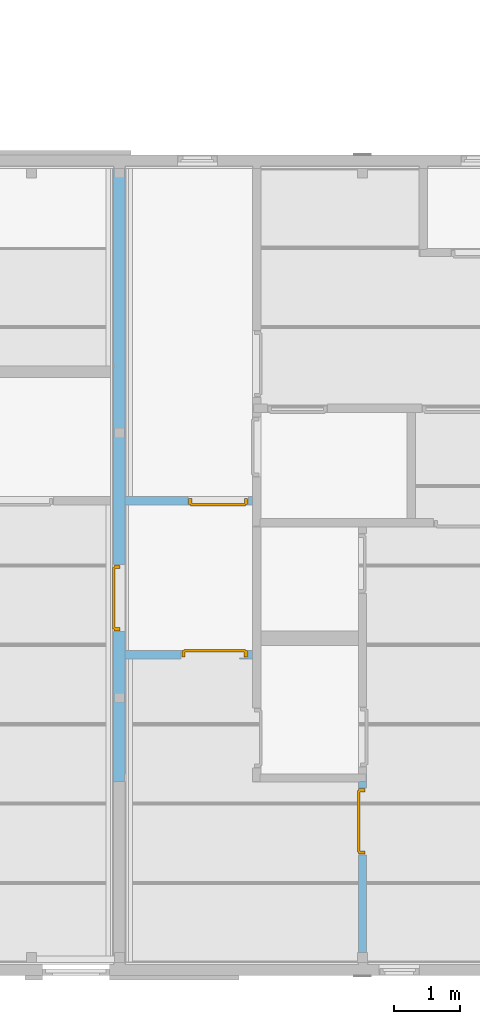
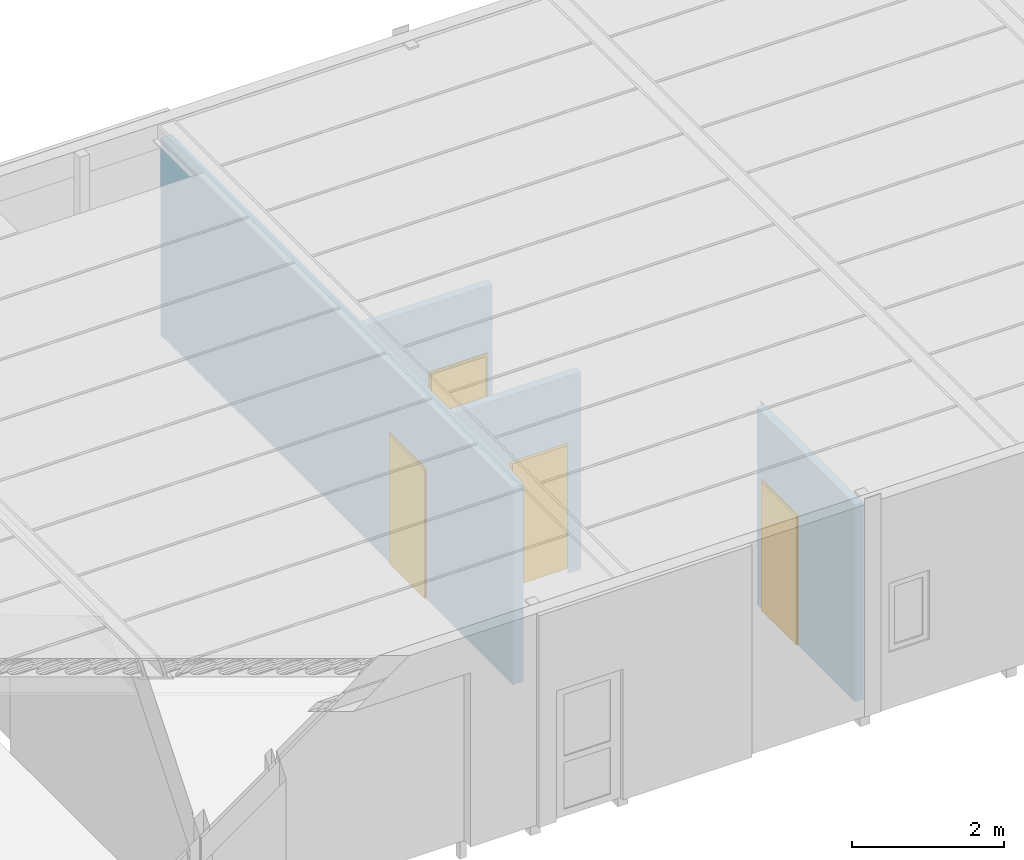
# One storey, part 27 of 45: 4 doors, 4 openings, plus 4 elements that do not belong to this part.
"""IFC2X3 building model written with IfcOpenShell, lengths in millimetres."""

from ifc_helpers import new_model, entity, si_unit, converted_unit, frame, frame_2d, origin, origin_with_axes, place, context, subcontext, project, spatial, polyline, rectangle, outline, extrude, faceted_brep, material, layer, layer_set, layer_usage, type_object, element, fill, save


model = new_model("IFC2X3")

# Units and contexts
model_context = context("Model", 3, precision=1e-05, world=origin())
plan_context = context("Plan", 3, precision=1e-05, world=origin())
body_context = subcontext(model_context, "Body", "Model", "MODEL_VIEW")
ifc_project = project(units=[si_unit("LENGTHUNIT", "METRE", prefix="MILLI"), converted_unit("PLANEANGLEUNIT", "DEGREE", entity("IfcPlaneAngleMeasure", 0.0174532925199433), si_unit("PLANEANGLEUNIT", "RADIAN"), dimensions=[0, 0, 0, 0, 0, 0, 0]), si_unit("AREAUNIT", "SQUARE_METRE"), si_unit("VOLUMEUNIT", "CUBIC_METRE")], contexts=[model_context, plan_context])

# Building, storey
building_placement = place(None, origin())
building = spatial("IfcBuilding", under=ifc_project, at=building_placement, Name="HEKF Administrasjonbygg", CompositionType="ELEMENT")
storey_placement = place(building_placement, frame((0.0, 0.0, 6500.0), z_axis=(0.0, 0.0, 1.0), x_axis=(1.0, 0.0, 0.0)))
storey = spatial("IfcBuildingStorey", under=building, at=storey_placement, Name="Plan 1", CompositionType="ELEMENT", Elevation=6500.0)

# Wall, opening, door
ifc_material_1 = material(Name="gips")
ifc_layer_1 = layer(ifc_material_1, 13.0)
ifc_material_2 = material(Name="riegel stål 100")
ifc_layer_2 = layer(ifc_material_2, 150.0)
ifc_material_3 = material(Name="gips")
ifc_layer_3 = layer(ifc_material_3, 13.0)
ifc_layer_set_1 = layer_set([ifc_layer_1, ifc_layer_2, ifc_layer_3])
ifc_layer_usage_1 = layer_usage(ifc_layer_set_1, "AXIS2", "POSITIVE", -13.0)
wall_1_placement = place(storey_placement, frame((16237.0, -1.13686837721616e-13, 0.0), z_axis=(0.0, 0.0, 1.0), x_axis=(0.0, -1.0, 0.0)))
wall_1 = element("IfcWallStandardCase", 1, at=wall_1_placement, inside=storey, material=ifc_layer_usage_1, context=body_context, shape_type="SweptSolid", body=[
    extrude(outline(polyline([(0.0, 0.0), (2987.0, 0.0), (2987.0, 13.0), (3000.0, 13.0), (3000.0, 0.0), (9276.00000000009, 0.0), (9276.00000000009, 13.0), (9263.00000000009, 13.0), (9263.00000000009, 163.0), (9163.00000000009, 163.0), (9163.00000000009, 176.0), (0.0, 176.0), (0.0, 0.0)])), origin_with_axes(), (0.0, 0.0, 1.0), 3170.0),
])
opening_1_placement = place(wall_1_placement, frame((5989.999999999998, 0.0, 0.0), z_axis=(0.0, 1.0, 0.0), x_axis=(0.0, 0.0, 1.0)))
opening_1 = element("IfcOpeningElement", 2, at=opening_1_placement, cuts=wall_1, Name="garasjeport med glassfelter:45x6", ObjectType="Opening", context=body_context, shape_type="SweptSolid", body=[
    extrude(rectangle(XDim=2100.0, YDim=1010.0, at=frame_2d((1050.0, 505.0), x_axis=(1.0, 0.0))), origin_with_axes(), (0.0, 0.0, 1.0), 176.0),
])
ifc_material_4 = material()
door_style_1 = type_object("IfcDoorStyle", Name="D012", ConstructionType="NOTDEFINED", OperationType="USERDEFINED", ParameterTakesPrecedence=False, Sizeable=False)
door_1_placement = place(opening_1_placement, frame((0.0, 0.0, 0.0), z_axis=(1.0, 0.0, 0.0), x_axis=(0.0, 1.0, 0.0)))
door_1 = element("IfcDoor", 3, at=door_1_placement, inside=storey, type_object=door_style_1, material=ifc_material_4, Name="D012", OverallHeight=2100.0, OverallWidth=1010.0, context=body_context, shape_type="Brep", body=[
    faceted_brep([(9.999999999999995, 3.999999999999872, 2080.0), (59.99999999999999, 3.999999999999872, 2080.0), (59.99999999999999, 4.0, -2.816687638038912e-15), (9.999999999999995, 4.0, -2.816687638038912e-15), (10.0, 96.0, 2.816687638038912e-15), (60.0, 96.0, 2.816687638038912e-15), (60.0, 95.99999999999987, 2080.0), (10.0, 95.99999999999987, 2080.0), (9.999999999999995, 4.0, -2.816687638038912e-15), (10.0, 96.0, 2.816687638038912e-15), (10.0, 95.99999999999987, 2080.0), (9.999999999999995, 3.999999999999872, 2080.0), (59.99999999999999, 4.0, -2.816687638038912e-15), (60.0, 96.0, 2.816687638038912e-15), (10.0, 96.0, 2.816687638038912e-15), (9.999999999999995, 4.0, -2.816687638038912e-15), (59.99999999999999, 3.999999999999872, 2080.0), (60.0, 95.99999999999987, 2080.0), (60.0, 96.0, 2.816687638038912e-15), (59.99999999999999, 4.0, -2.816687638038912e-15), (9.999999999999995, 3.999999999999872, 2080.0), (10.0, 95.99999999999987, 2080.0), (60.0, 95.99999999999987, 2080.0), (59.99999999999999, 3.999999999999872, 2080.0)], [[[0, 1, 2, 3]], [[4, 5, 6, 7]], [[8, 9, 10, 11]], [[12, 13, 14, 15]], [[16, 17, 18, 19]], [[20, 21, 22, 23]]], orient=[[False], [False], [False], [False], [False], [False]]),
    faceted_brep([(950.0, 3.999999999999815, 2080.0), (1000.0, 3.999999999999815, 2080.0), (1000.0, 3.999999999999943, -2.816687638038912e-15), (950.0, 3.999999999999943, -2.816687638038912e-15), (950.0, 95.99999999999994, 2.816687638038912e-15), (1000.0, 95.99999999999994, 2.816687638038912e-15), (1000.0, 95.99999999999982, 2080.0), (950.0, 95.99999999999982, 2080.0), (950.0, 3.999999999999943, -2.816687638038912e-15), (950.0, 95.99999999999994, 2.816687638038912e-15), (950.0, 95.99999999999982, 2080.0), (950.0, 3.999999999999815, 2080.0), (1000.0, 3.999999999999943, -2.816687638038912e-15), (1000.0, 95.99999999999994, 2.816687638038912e-15), (950.0, 95.99999999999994, 2.816687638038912e-15), (950.0, 3.999999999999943, -2.816687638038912e-15), (1000.0, 3.999999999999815, 2080.0), (1000.0, 95.99999999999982, 2080.0), (1000.0, 95.99999999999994, 2.816687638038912e-15), (1000.0, 3.999999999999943, -2.816687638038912e-15), (950.0, 3.999999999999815, 2080.0), (950.0, 95.99999999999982, 2080.0), (1000.0, 95.99999999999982, 2080.0), (1000.0, 3.999999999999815, 2080.0)], [[[0, 1, 2, 3]], [[4, 5, 6, 7]], [[8, 9, 10, 11]], [[12, 13, 14, 15]], [[16, 17, 18, 19]], [[20, 21, 22, 23]]], orient=[[False], [False], [False], [False], [False], [False]]),
    faceted_brep([(59.99999999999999, 3.999999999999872, 2080.0), (949.9999999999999, 3.999999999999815, 2080.0), (949.9999999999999, 3.999999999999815, 2030.0), (59.99999999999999, 3.999999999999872, 2030.0), (60.0, 95.99999999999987, 2030.0), (949.9999999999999, 95.99999999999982, 2030.0), (949.9999999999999, 95.99999999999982, 2080.000000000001), (60.0, 95.99999999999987, 2080.000000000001), (59.99999999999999, 3.999999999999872, 2030.0), (60.0, 95.99999999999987, 2030.0), (60.0, 95.99999999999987, 2080.000000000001), (59.99999999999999, 3.999999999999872, 2080.0), (949.9999999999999, 3.999999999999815, 2030.0), (949.9999999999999, 95.99999999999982, 2030.0), (60.0, 95.99999999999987, 2030.0), (59.99999999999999, 3.999999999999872, 2030.0), (949.9999999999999, 3.999999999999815, 2080.0), (949.9999999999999, 95.99999999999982, 2080.000000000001), (949.9999999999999, 95.99999999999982, 2030.0), (949.9999999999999, 3.999999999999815, 2030.0), (59.99999999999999, 3.999999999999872, 2080.0), (60.0, 95.99999999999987, 2080.000000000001), (949.9999999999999, 95.99999999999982, 2080.000000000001), (949.9999999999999, 3.999999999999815, 2080.0)], [[[0, 1, 2, 3]], [[4, 5, 6, 7]], [[8, 9, 10, 11]], [[12, 13, 14, 15]], [[16, 17, 18, 19]], [[20, 21, 22, 23]]], orient=[[False], [False], [False], [False], [False], [False]]),
    faceted_brep([(40.0, -16.00000000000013, 2050.000000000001), (969.9999999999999, -16.00000000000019, 2050.000000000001), (969.9999999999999, -16.00000000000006, -4.041334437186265e-15), (40.0, -16.0, -4.041334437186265e-15), (40.0, 24.0, -1.592040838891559e-15), (969.9999999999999, 23.99999999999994, -1.592040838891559e-15), (969.9999999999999, 23.99999999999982, 2050.000000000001), (40.0, 23.99999999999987, 2050.000000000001), (40.0, -16.0, -4.041334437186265e-15), (40.0, 24.0, -1.592040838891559e-15), (40.0, 23.99999999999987, 2050.000000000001), (40.0, -16.00000000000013, 2050.000000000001), (969.9999999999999, -16.00000000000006, -4.041334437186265e-15), (969.9999999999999, 23.99999999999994, -1.592040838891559e-15), (40.0, 24.0, -1.592040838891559e-15), (40.0, -16.0, -4.041334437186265e-15), (969.9999999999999, -16.00000000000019, 2050.000000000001), (969.9999999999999, 23.99999999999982, 2050.000000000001), (969.9999999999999, 23.99999999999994, -1.592040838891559e-15), (969.9999999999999, -16.00000000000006, -4.041334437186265e-15), (40.0, -16.00000000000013, 2050.000000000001), (40.0, 23.99999999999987, 2050.000000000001), (969.9999999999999, 23.99999999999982, 2050.000000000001), (969.9999999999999, -16.00000000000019, 2050.000000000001)], [[[0, 1, 2, 3]], [[4, 5, 6, 7]], [[8, 9, 10, 11]], [[12, 13, 14, 15]], [[16, 17, 18, 19]], [[20, 21, 22, 23]]], orient=[[False], [False], [False], [False], [False], [False]]),
])
fill(opening_1, door_1)

ifc_material_5 = material(Name="gips")
ifc_layer_4 = layer(ifc_material_5, 13.0)
ifc_material_6 = material(Name="riegel stål 100")
ifc_layer_5 = layer(ifc_material_6, 100.0)
ifc_material_7 = material(Name="gips")
ifc_layer_6 = layer(ifc_material_7, 13.0)
ifc_layer_set_2 = layer_set([ifc_layer_4, ifc_layer_5, ifc_layer_6])
ifc_layer_usage_2 = layer_usage(ifc_layer_set_2, "AXIS2", "POSITIVE", 0.0)
wall_2_placement = place(storey_placement, frame((18337.0, -4961.000000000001, 0.0), z_axis=(0.0, 0.0, 1.0), x_axis=(-1.0, 3.078277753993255e-16, 0.0)))
wall_2 = element("IfcWallStandardCase", 4, at=wall_2_placement, inside=storey, material=ifc_layer_usage_2, context=body_context, shape_type="SweptSolid", body=[
    extrude(outline(polyline([(1924.0, 125.9999999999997), (-3.878629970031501e-14, 126.0), (0.0, 0.0), (1924.0, -3.172340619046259e-13), (1924.0, 125.9999999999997)])), origin_with_axes(), (0.0, 0.0, 1.0), 3170.0),
])
opening_2_placement = place(wall_2_placement, frame((63.64611840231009, 0.0, 0.0), z_axis=(0.0, 1.0, 0.0), x_axis=(0.0, 0.0, 1.0)))
opening_2 = element("IfcOpeningElement", 5, at=opening_2_placement, cuts=wall_2, Name="D014", ObjectType="Opening", context=body_context, shape_type="SweptSolid", body=[
    extrude(rectangle(XDim=2100.0, YDim=910.0, at=frame_2d((1050.0, 455.0), x_axis=(1.0, 0.0))), origin_with_axes(), (0.0, 0.0, 1.0), 126.0),
])
ifc_material_8 = material()
door_style_2 = type_object("IfcDoorStyle", Name="D014", ConstructionType="NOTDEFINED", OperationType="USERDEFINED", ParameterTakesPrecedence=False, Sizeable=False)
door_2_placement = place(opening_2_placement, frame((0.0, 0.0, 0.0), z_axis=(1.0, 0.0, 0.0), x_axis=(0.0, 1.0, 0.0)))
door_2 = element("IfcDoor", 6, at=door_2_placement, inside=storey, type_object=door_style_2, material=ifc_material_8, Name="D014", OverallHeight=2100.0, OverallWidth=910.0, context=body_context, shape_type="Brep", body=[
    faceted_brep([(9.999999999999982, 122.0000000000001, 2080.0), (9.999999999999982, 121.9999999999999, -2.816687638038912e-15), (59.99999999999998, 122.0, -2.816687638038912e-15), (59.99999999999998, 122.0000000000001, 2080.0), (10.0, 30.00000000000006, 2.816687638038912e-15), (10.0, 30.00000000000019, 2080.0), (60.0, 30.0000000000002, 2080.0), (60.0, 30.00000000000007, 2.816687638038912e-15), (9.999999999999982, 121.9999999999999, -2.816687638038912e-15), (9.999999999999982, 122.0000000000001, 2080.0), (10.0, 30.00000000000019, 2080.0), (10.0, 30.00000000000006, 2.816687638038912e-15), (59.99999999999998, 122.0, -2.816687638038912e-15), (9.999999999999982, 121.9999999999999, -2.816687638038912e-15), (10.0, 30.00000000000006, 2.816687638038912e-15), (60.0, 30.00000000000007, 2.816687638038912e-15), (59.99999999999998, 122.0000000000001, 2080.0), (59.99999999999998, 122.0, -2.816687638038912e-15), (60.0, 30.00000000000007, 2.816687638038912e-15), (60.0, 30.0000000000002, 2080.0), (9.999999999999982, 122.0000000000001, 2080.0), (59.99999999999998, 122.0000000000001, 2080.0), (60.0, 30.0000000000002, 2080.0), (10.0, 30.00000000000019, 2080.0)], [[[0, 1, 2, 3]], [[4, 5, 6, 7]], [[8, 9, 10, 11]], [[12, 13, 14, 15]], [[16, 17, 18, 19]], [[20, 21, 22, 23]]], orient=[[False], [False], [False], [False], [False], [False]]),
    faceted_brep([(850.0, 122.0000000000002, 2080.0), (850.0, 122.0000000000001, -2.816687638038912e-15), (900.0, 122.0000000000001, -2.816687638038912e-15), (900.0, 122.0000000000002, 2080.0), (850.0, 30.00000000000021, 2.816687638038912e-15), (850.0, 30.00000000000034, 2080.0), (900.0, 30.00000000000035, 2080.0), (900.0, 30.00000000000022, 2.816687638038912e-15), (850.0, 122.0000000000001, -2.816687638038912e-15), (850.0, 122.0000000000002, 2080.0), (850.0, 30.00000000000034, 2080.0), (850.0, 30.00000000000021, 2.816687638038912e-15), (900.0, 122.0000000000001, -2.816687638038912e-15), (850.0, 122.0000000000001, -2.816687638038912e-15), (850.0, 30.00000000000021, 2.816687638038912e-15), (900.0, 30.00000000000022, 2.816687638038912e-15), (900.0, 122.0000000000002, 2080.0), (900.0, 122.0000000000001, -2.816687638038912e-15), (900.0, 30.00000000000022, 2.816687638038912e-15), (900.0, 30.00000000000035, 2080.0), (850.0, 122.0000000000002, 2080.0), (900.0, 122.0000000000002, 2080.0), (900.0, 30.00000000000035, 2080.0), (850.0, 30.00000000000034, 2080.0)], [[[0, 1, 2, 3]], [[4, 5, 6, 7]], [[8, 9, 10, 11]], [[12, 13, 14, 15]], [[16, 17, 18, 19]], [[20, 21, 22, 23]]], orient=[[False], [False], [False], [False], [False], [False]]),
    faceted_brep([(59.99999999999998, 122.0000000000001, 2080.0), (59.99999999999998, 122.0000000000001, 2030.0), (849.9999999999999, 122.0000000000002, 2030.0), (849.9999999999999, 122.0000000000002, 2080.0), (60.0, 30.0000000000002, 2030.0), (60.0, 30.0000000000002, 2080.000000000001), (849.9999999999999, 30.00000000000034, 2080.000000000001), (849.9999999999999, 30.00000000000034, 2030.0), (59.99999999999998, 122.0000000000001, 2030.0), (59.99999999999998, 122.0000000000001, 2080.0), (60.0, 30.0000000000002, 2080.000000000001), (60.0, 30.0000000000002, 2030.0), (849.9999999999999, 122.0000000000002, 2030.0), (59.99999999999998, 122.0000000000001, 2030.0), (60.0, 30.0000000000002, 2030.0), (849.9999999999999, 30.00000000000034, 2030.0), (849.9999999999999, 122.0000000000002, 2080.0), (849.9999999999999, 122.0000000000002, 2030.0), (849.9999999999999, 30.00000000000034, 2030.0), (849.9999999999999, 30.00000000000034, 2080.000000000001), (59.99999999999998, 122.0000000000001, 2080.0), (849.9999999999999, 122.0000000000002, 2080.0), (849.9999999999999, 30.00000000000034, 2080.000000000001), (60.0, 30.0000000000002, 2080.000000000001)], [[[0, 1, 2, 3]], [[4, 5, 6, 7]], [[8, 9, 10, 11]], [[12, 13, 14, 15]], [[16, 17, 18, 19]], [[20, 21, 22, 23]]], orient=[[False], [False], [False], [False], [False], [False]]),
    faceted_brep([(39.99999999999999, 142.0000000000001, 2050.000000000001), (39.99999999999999, 141.9999999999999, -4.041334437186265e-15), (870.0, 142.0000000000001, -4.041334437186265e-15), (870.0, 142.0000000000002, 2050.000000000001), (39.99999999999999, 102.0, -1.592040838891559e-15), (39.99999999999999, 102.0000000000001, 2050.000000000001), (870.0, 102.0000000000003, 2050.000000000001), (870.0, 102.0000000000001, -1.592040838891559e-15), (39.99999999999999, 141.9999999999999, -4.041334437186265e-15), (39.99999999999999, 142.0000000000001, 2050.000000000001), (39.99999999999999, 102.0000000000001, 2050.000000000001), (39.99999999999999, 102.0, -1.592040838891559e-15), (870.0, 142.0000000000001, -4.041334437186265e-15), (39.99999999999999, 141.9999999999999, -4.041334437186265e-15), (39.99999999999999, 102.0, -1.592040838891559e-15), (870.0, 102.0000000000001, -1.592040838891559e-15), (870.0, 142.0000000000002, 2050.000000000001), (870.0, 142.0000000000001, -4.041334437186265e-15), (870.0, 102.0000000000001, -1.592040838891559e-15), (870.0, 102.0000000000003, 2050.000000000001), (39.99999999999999, 142.0000000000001, 2050.000000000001), (870.0, 142.0000000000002, 2050.000000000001), (870.0, 102.0000000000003, 2050.000000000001), (39.99999999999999, 102.0000000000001, 2050.000000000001)], [[[0, 1, 2, 3]], [[4, 5, 6, 7]], [[8, 9, 10, 11]], [[12, 13, 14, 15]], [[16, 17, 18, 19]], [[20, 21, 22, 23]]], orient=[[False], [False], [False], [False], [False], [False]]),
])
fill(opening_2, door_2)

ifc_material_9 = material(Name="gips")
ifc_layer_7 = layer(ifc_material_9, 14.41362522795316)
ifc_material_10 = material(Name="riegel stål 100")
ifc_layer_8 = layer(ifc_material_10, 99.68287760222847)
ifc_material_11 = material(Name="gips")
ifc_layer_9 = layer(ifc_material_11, 13.03688364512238)
ifc_layer_set_3 = layer_set([ifc_layer_7, ifc_layer_8, ifc_layer_9])
ifc_layer_usage_3 = layer_usage(ifc_layer_set_3, "AXIS2", "POSITIVE", -13.0)
wall_3_placement = place(storey_placement, frame((16413.0, -7412.999999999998, 0.0), z_axis=(0.0, 0.0, 1.0), x_axis=(1.0, 0.0, 0.0)))
wall_3 = element("IfcWallStandardCase", 7, at=wall_3_placement, inside=storey, material=ifc_layer_usage_3, context=body_context, shape_type="SweptSolid", body=[
    extrude(outline(polyline([(1924.0, 127.4136252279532), (815.1164036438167, 127.4136252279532), (0.0, 126.0), (0.0, 0.0), (1924.0, 0.0), (1924.0, 127.4136252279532)]), holes=[polyline([(815.1164036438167, 114.4136252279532), (1725.116403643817, 114.4136252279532), (1757.765161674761, 114.092363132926), (1924.0, 113.9407350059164), (815.1164036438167, 114.4136252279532)])]), origin_with_axes(), (0.0, 0.0, 1.0), 3170.0),
])
opening_3_placement = place(wall_3_placement, frame((845.2425021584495, 0.0, 0.0), z_axis=(0.0, 1.0, 0.0), x_axis=(0.0, 0.0, 1.0)))
opening_3 = element("IfcOpeningElement", 8, at=opening_3_placement, cuts=wall_3, Name="D013", ObjectType="Opening", context=body_context, shape_type="SweptSolid", body=[
    extrude(rectangle(XDim=2100.0, YDim=879.8739014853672, at=frame_2d((1050.0, 439.9369507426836), x_axis=(1.0, 0.0))), origin_with_axes(), (0.0, 0.0, 1.0), 14.41362522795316),
    extrude(rectangle(XDim=2100.0, YDim=1010.000091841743, at=frame_2d((1050.0, 505.0000459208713), x_axis=(1.0, 0.0))), frame((0.0, 0.0, 14.41362522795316), z_axis=(0.0, 0.0, 1.0), x_axis=(1.0, 0.0, 0.0)), (0.0, 0.0, 1.0), 99.77182501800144),
    extrude(rectangle(XDim=2100.0, YDim=1010.0, at=frame_2d((1050.0, 505.0), x_axis=(1.0, 0.0))), frame((0.0, 0.0, 114.4136252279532), z_axis=(0.0, 0.0, 1.0), x_axis=(1.0, 0.0, 0.0)), (0.0, 0.0, 1.0), 13.0),
])
ifc_material_12 = material()
door_style_3 = type_object("IfcDoorStyle", Name="D013", ConstructionType="NOTDEFINED", OperationType="USERDEFINED", ParameterTakesPrecedence=False, Sizeable=False)
door_3_placement = place(opening_3_placement, frame((0.0, 0.0, 0.0), z_axis=(1.0, 0.0, 0.0), x_axis=(0.0, 1.0, 0.0)))
door_3 = element("IfcDoor", 9, at=door_3_placement, inside=storey, type_object=door_style_3, material=ifc_material_12, Name="D013", OverallHeight=2100.0, OverallWidth=1005.82, context=body_context, shape_type="Brep", body=[
    faceted_brep([(1000.0, 123.4136252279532, 2080.0), (950.0, 123.4136252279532, 2080.0), (950.0, 123.4136252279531, -2.816687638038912e-15), (1000.0, 123.4136252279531, -2.816687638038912e-15), (1000.0, 31.41362522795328, 2.816687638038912e-15), (950.0, 31.41362522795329, 2.816687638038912e-15), (950.0, 31.41362522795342, 2080.0), (1000.0, 31.4136252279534, 2080.0), (1000.0, 123.4136252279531, -2.816687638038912e-15), (1000.0, 31.41362522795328, 2.816687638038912e-15), (1000.0, 31.4136252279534, 2080.0), (1000.0, 123.4136252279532, 2080.0), (950.0, 123.4136252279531, -2.816687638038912e-15), (950.0, 31.41362522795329, 2.816687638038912e-15), (1000.0, 31.41362522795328, 2.816687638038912e-15), (1000.0, 123.4136252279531, -2.816687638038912e-15), (950.0, 123.4136252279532, 2080.0), (950.0, 31.41362522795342, 2080.0), (950.0, 31.41362522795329, 2.816687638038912e-15), (950.0, 123.4136252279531, -2.816687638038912e-15), (1000.0, 123.4136252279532, 2080.0), (1000.0, 31.4136252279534, 2080.0), (950.0, 31.41362522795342, 2080.0), (950.0, 123.4136252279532, 2080.0)], [[[0, 1, 2, 3]], [[4, 5, 6, 7]], [[8, 9, 10, 11]], [[12, 13, 14, 15]], [[16, 17, 18, 19]], [[20, 21, 22, 23]]], orient=[[False], [False], [False], [False], [False], [False]]),
    faceted_brep([(60.0, 123.4136252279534, 2080.0), (10.0, 123.4136252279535, 2080.0), (10.0, 123.4136252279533, -2.816687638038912e-15), (60.0, 123.4136252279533, -2.816687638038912e-15), (60.0, 31.41362522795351, 2.816687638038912e-15), (10.0, 31.41362522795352, 2.816687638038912e-15), (10.0, 31.41362522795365, 2080.0), (60.0, 31.41362522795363, 2080.0), (60.0, 123.4136252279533, -2.816687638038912e-15), (60.0, 31.41362522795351, 2.816687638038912e-15), (60.0, 31.41362522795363, 2080.0), (60.0, 123.4136252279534, 2080.0), (10.0, 123.4136252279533, -2.816687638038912e-15), (10.0, 31.41362522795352, 2.816687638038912e-15), (60.0, 31.41362522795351, 2.816687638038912e-15), (60.0, 123.4136252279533, -2.816687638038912e-15), (10.0, 123.4136252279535, 2080.0), (10.0, 31.41362522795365, 2080.0), (10.0, 31.41362522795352, 2.816687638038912e-15), (10.0, 123.4136252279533, -2.816687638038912e-15), (60.0, 123.4136252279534, 2080.0), (60.0, 31.41362522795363, 2080.0), (10.0, 31.41362522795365, 2080.0), (10.0, 123.4136252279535, 2080.0)], [[[0, 1, 2, 3]], [[4, 5, 6, 7]], [[8, 9, 10, 11]], [[12, 13, 14, 15]], [[16, 17, 18, 19]], [[20, 21, 22, 23]]], orient=[[False], [False], [False], [False], [False], [False]]),
    faceted_brep([(950.0, 123.4136252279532, 2080.0), (60.00000000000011, 123.4136252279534, 2080.0), (60.00000000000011, 123.4136252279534, 2030.0), (950.0, 123.4136252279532, 2030.0), (950.0, 31.41362522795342, 2030.0), (60.00000000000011, 31.41362522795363, 2030.0), (60.00000000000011, 31.41362522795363, 2080.000000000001), (950.0, 31.41362522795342, 2080.000000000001), (950.0, 123.4136252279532, 2030.0), (950.0, 31.41362522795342, 2030.0), (950.0, 31.41362522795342, 2080.000000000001), (950.0, 123.4136252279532, 2080.0), (60.00000000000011, 123.4136252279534, 2030.0), (60.00000000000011, 31.41362522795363, 2030.0), (950.0, 31.41362522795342, 2030.0), (950.0, 123.4136252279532, 2030.0), (60.00000000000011, 123.4136252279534, 2080.0), (60.00000000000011, 31.41362522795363, 2080.000000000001), (60.00000000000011, 31.41362522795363, 2030.0), (60.00000000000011, 123.4136252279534, 2030.0), (950.0, 123.4136252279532, 2080.0), (950.0, 31.41362522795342, 2080.000000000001), (60.00000000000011, 31.41362522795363, 2080.000000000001), (60.00000000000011, 123.4136252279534, 2080.0)], [[[0, 1, 2, 3]], [[4, 5, 6, 7]], [[8, 9, 10, 11]], [[12, 13, 14, 15]], [[16, 17, 18, 19]], [[20, 21, 22, 23]]], orient=[[False], [False], [False], [False], [False], [False]]),
    faceted_brep([(970.0, 143.4136252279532, 2050.000000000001), (40.00000000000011, 143.4136252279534, 2050.000000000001), (40.00000000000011, 143.4136252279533, -4.041334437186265e-15), (970.0, 143.4136252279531, -4.041334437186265e-15), (970.0, 103.4136252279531, -1.592040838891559e-15), (40.00000000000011, 103.4136252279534, -1.592040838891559e-15), (40.00000000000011, 103.4136252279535, 2050.000000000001), (970.0, 103.4136252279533, 2050.000000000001), (970.0, 143.4136252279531, -4.041334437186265e-15), (970.0, 103.4136252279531, -1.592040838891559e-15), (970.0, 103.4136252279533, 2050.000000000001), (970.0, 143.4136252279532, 2050.000000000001), (40.00000000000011, 143.4136252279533, -4.041334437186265e-15), (40.00000000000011, 103.4136252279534, -1.592040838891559e-15), (970.0, 103.4136252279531, -1.592040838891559e-15), (970.0, 143.4136252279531, -4.041334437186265e-15), (40.00000000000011, 143.4136252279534, 2050.000000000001), (40.00000000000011, 103.4136252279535, 2050.000000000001), (40.00000000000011, 103.4136252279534, -1.592040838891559e-15), (40.00000000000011, 143.4136252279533, -4.041334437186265e-15), (970.0, 143.4136252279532, 2050.000000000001), (970.0, 103.4136252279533, 2050.000000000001), (40.00000000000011, 103.4136252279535, 2050.000000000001), (40.00000000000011, 143.4136252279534, 2050.000000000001)], [[[0, 1, 2, 3]], [[4, 5, 6, 7]], [[8, 9, 10, 11]], [[12, 13, 14, 15]], [[16, 17, 18, 19]], [[20, 21, 22, 23]]], orient=[[False], [False], [False], [False], [False], [False]]),
])
fill(opening_3, door_3)

ifc_material_13 = material(Name="gips")
ifc_layer_10 = layer(ifc_material_13, 13.0)
ifc_material_14 = material(Name="riegel stål 100")
ifc_layer_11 = layer(ifc_material_14, 100.0)
ifc_material_15 = material(Name="gips")
ifc_layer_12 = layer(ifc_material_15, 13.0)
ifc_layer_set_4 = layer_set([ifc_layer_10, ifc_layer_11, ifc_layer_12])
ifc_layer_usage_4 = layer_usage(ifc_layer_set_4, "AXIS2", "POSITIVE", -13.0)
wall_4_placement = place(storey_placement, frame((20063.0, -11849.99999999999, 0.0), z_axis=(0.0, 0.0, 1.0), x_axis=(0.0, 0.9999999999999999, 0.0)))
wall_4 = element("IfcWallStandardCase", 10, at=wall_4_placement, inside=storey, material=ifc_layer_usage_4, context=body_context, shape_type="SweptSolid", body=[
    extrude(outline(polyline([(0.0, 0.0), (2686.999999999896, 0.0), (2686.999999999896, 13.0), (2586.999999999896, 13.0), (2586.999999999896, 113.0), (2573.999999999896, 113.0), (2573.999999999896, 126.0), (0.0, 126.0), (0.0, 0.0)])), origin_with_axes(), (0.0, 0.0, 1.0), 3170.0),
])
opening_4_placement = place(wall_4_placement, frame((1476.999999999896, 0.0, 0.0), z_axis=(0.0, 1.0, 0.0), x_axis=(0.0, 0.0, 1.0)))
opening_4 = element("IfcOpeningElement", 11, at=opening_4_placement, cuts=wall_4, Name="D016", ObjectType="Opening", context=body_context, shape_type="SweptSolid", body=[
    extrude(rectangle(XDim=2100.0, YDim=1010.0, at=frame_2d((1050.0, 505.0), x_axis=(1.0, 0.0))), origin_with_axes(), (0.0, 0.0, 1.0), 126.0),
])
ifc_material_16 = material()
door_style_4 = type_object("IfcDoorStyle", Name="D016", ConstructionType="NOTDEFINED", OperationType="USERDEFINED", ParameterTakesPrecedence=False, Sizeable=False)
door_4_placement = place(opening_4_placement, frame((0.0, 0.0, 0.0), z_axis=(1.0, 0.0, 0.0), x_axis=(0.0, 1.0, 0.0)))
door_4 = element("IfcDoor", 12, at=door_4_placement, inside=storey, type_object=door_style_4, material=ifc_material_16, Name="D016", OverallHeight=2100.0, OverallWidth=1010.0, context=body_context, shape_type="Brep", body=[
    faceted_brep([(1000.0, 122.0000000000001, 2080.0), (950.0, 122.0000000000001, 2080.0), (950.0, 122.0, -2.816687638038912e-15), (1000.0, 122.0, -2.816687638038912e-15), (1000.0, 30.0, 2.816687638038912e-15), (950.0, 30.0, 2.816687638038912e-15), (950.0, 30.00000000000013, 2080.0), (1000.0, 30.00000000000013, 2080.0), (1000.0, 122.0, -2.816687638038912e-15), (1000.0, 30.0, 2.816687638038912e-15), (1000.0, 30.00000000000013, 2080.0), (1000.0, 122.0000000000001, 2080.0), (950.0, 122.0, -2.816687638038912e-15), (950.0, 30.0, 2.816687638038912e-15), (1000.0, 30.0, 2.816687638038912e-15), (1000.0, 122.0, -2.816687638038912e-15), (950.0, 122.0000000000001, 2080.0), (950.0, 30.00000000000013, 2080.0), (950.0, 30.0, 2.816687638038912e-15), (950.0, 122.0, -2.816687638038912e-15), (1000.0, 122.0000000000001, 2080.0), (1000.0, 30.00000000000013, 2080.0), (950.0, 30.00000000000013, 2080.0), (950.0, 122.0000000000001, 2080.0)], [[[0, 1, 2, 3]], [[4, 5, 6, 7]], [[8, 9, 10, 11]], [[12, 13, 14, 15]], [[16, 17, 18, 19]], [[20, 21, 22, 23]]], orient=[[False], [False], [False], [False], [False], [False]]),
    faceted_brep([(60.0, 122.0000000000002, 2080.0), (10.0, 122.0000000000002, 2080.0), (10.0, 122.0000000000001, -2.816687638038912e-15), (60.0, 122.0000000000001, -2.816687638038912e-15), (60.0, 30.00000000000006, 2.816687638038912e-15), (10.0, 30.00000000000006, 2.816687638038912e-15), (10.0, 30.00000000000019, 2080.0), (60.0, 30.00000000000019, 2080.0), (60.0, 122.0000000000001, -2.816687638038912e-15), (60.0, 30.00000000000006, 2.816687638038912e-15), (60.0, 30.00000000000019, 2080.0), (60.0, 122.0000000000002, 2080.0), (10.0, 122.0000000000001, -2.816687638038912e-15), (10.0, 30.00000000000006, 2.816687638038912e-15), (60.0, 30.00000000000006, 2.816687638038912e-15), (60.0, 122.0000000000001, -2.816687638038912e-15), (10.0, 122.0000000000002, 2080.0), (10.0, 30.00000000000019, 2080.0), (10.0, 30.00000000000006, 2.816687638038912e-15), (10.0, 122.0000000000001, -2.816687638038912e-15), (60.0, 122.0000000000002, 2080.0), (60.0, 30.00000000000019, 2080.0), (10.0, 30.00000000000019, 2080.0), (10.0, 122.0000000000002, 2080.0)], [[[0, 1, 2, 3]], [[4, 5, 6, 7]], [[8, 9, 10, 11]], [[12, 13, 14, 15]], [[16, 17, 18, 19]], [[20, 21, 22, 23]]], orient=[[False], [False], [False], [False], [False], [False]]),
    faceted_brep([(950.0, 122.0000000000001, 2080.0), (60.00000000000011, 122.0000000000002, 2080.0), (60.00000000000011, 122.0000000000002, 2030.0), (950.0, 122.0000000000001, 2030.0), (950.0, 30.00000000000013, 2030.0), (60.00000000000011, 30.00000000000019, 2030.0), (60.00000000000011, 30.00000000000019, 2080.000000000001), (950.0, 30.00000000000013, 2080.000000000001), (950.0, 122.0000000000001, 2030.0), (950.0, 30.00000000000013, 2030.0), (950.0, 30.00000000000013, 2080.000000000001), (950.0, 122.0000000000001, 2080.0), (60.00000000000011, 122.0000000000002, 2030.0), (60.00000000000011, 30.00000000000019, 2030.0), (950.0, 30.00000000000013, 2030.0), (950.0, 122.0000000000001, 2030.0), (60.00000000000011, 122.0000000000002, 2080.0), (60.00000000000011, 30.00000000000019, 2080.000000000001), (60.00000000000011, 30.00000000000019, 2030.0), (60.00000000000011, 122.0000000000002, 2030.0), (950.0, 122.0000000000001, 2080.0), (950.0, 30.00000000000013, 2080.000000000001), (60.00000000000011, 30.00000000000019, 2080.000000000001), (60.00000000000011, 122.0000000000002, 2080.0)], [[[0, 1, 2, 3]], [[4, 5, 6, 7]], [[8, 9, 10, 11]], [[12, 13, 14, 15]], [[16, 17, 18, 19]], [[20, 21, 22, 23]]], orient=[[False], [False], [False], [False], [False], [False]]),
    faceted_brep([(970.0, 142.0000000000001, 2050.000000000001), (40.00000000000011, 142.0000000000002, 2050.000000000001), (40.00000000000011, 142.0000000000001, -4.041334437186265e-15), (970.0, 142.0, -4.041334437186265e-15), (970.0, 102.0, -1.592040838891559e-15), (40.00000000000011, 102.0000000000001, -1.592040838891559e-15), (40.00000000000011, 102.0000000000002, 2050.000000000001), (970.0, 102.0000000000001, 2050.000000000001), (970.0, 142.0, -4.041334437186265e-15), (970.0, 102.0, -1.592040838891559e-15), (970.0, 102.0000000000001, 2050.000000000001), (970.0, 142.0000000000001, 2050.000000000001), (40.00000000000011, 142.0000000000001, -4.041334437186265e-15), (40.00000000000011, 102.0000000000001, -1.592040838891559e-15), (970.0, 102.0, -1.592040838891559e-15), (970.0, 142.0, -4.041334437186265e-15), (40.00000000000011, 142.0000000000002, 2050.000000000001), (40.00000000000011, 102.0000000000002, 2050.000000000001), (40.00000000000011, 102.0000000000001, -1.592040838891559e-15), (40.00000000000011, 142.0000000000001, -4.041334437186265e-15), (970.0, 142.0000000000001, 2050.000000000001), (970.0, 102.0000000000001, 2050.000000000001), (40.00000000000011, 102.0000000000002, 2050.000000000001), (40.00000000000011, 142.0000000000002, 2050.000000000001)], [[[0, 1, 2, 3]], [[4, 5, 6, 7]], [[8, 9, 10, 11]], [[12, 13, 14, 15]], [[16, 17, 18, 19]], [[20, 21, 22, 23]]], orient=[[False], [False], [False], [False], [False], [False]]),
])
fill(opening_4, door_4)

save(model, "model.ifc")
